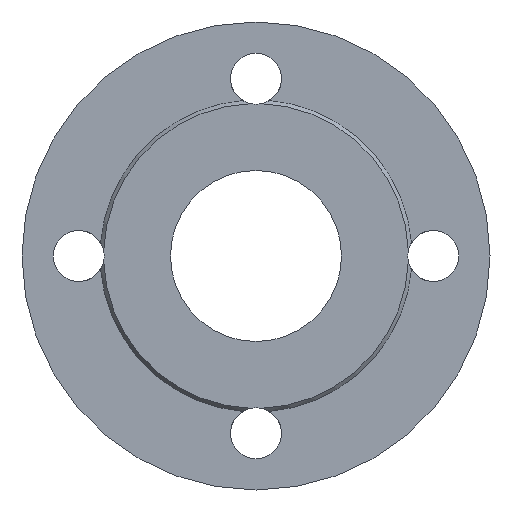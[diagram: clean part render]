
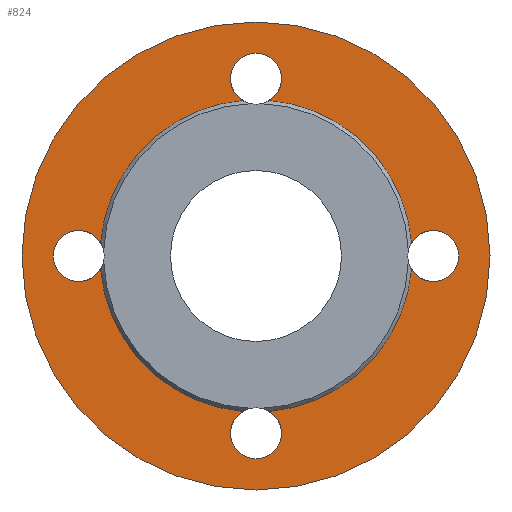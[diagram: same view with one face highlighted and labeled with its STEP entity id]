
A CAD part, front view. The second image highlights one B-rep face of the part: STEP entity #824.
In plain terms, the highlighted planar face has unit normal (0, -1, 0).
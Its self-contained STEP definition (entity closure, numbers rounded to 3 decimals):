
#2 = DIRECTION ( 'NONE',  ( 0., -1., 0. ) ) ;
#3 = EDGE_CURVE ( 'NONE', #861, #307, #662, .T. ) ;
#12 = AXIS2_PLACEMENT_3D ( 'NONE', #1034, #1045, #297 ) ;
#25 = AXIS2_PLACEMENT_3D ( 'NONE', #372, #948, #1043 ) ;
#28 = ORIENTED_EDGE ( 'NONE', *, *, #119, .F. ) ;
#31 = CARTESIAN_POINT ( 'NONE',  ( -62.5, 1.5, 0. ) ) ;
#39 = VERTEX_POINT ( 'NONE', #790 ) ;
#45 = AXIS2_PLACEMENT_3D ( 'NONE', #818, #324, #635 ) ;
#56 = ORIENTED_EDGE ( 'NONE', *, *, #382, .F. ) ;
#62 = ORIENTED_EDGE ( 'NONE', *, *, #306, .F. ) ;
#90 = CIRCLE ( 'NONE', #520, 9. ) ;
#92 = AXIS2_PLACEMENT_3D ( 'NONE', #645, #562, #565 ) ;
#94 = CARTESIAN_POINT ( 'NONE',  ( 0., 1.5, 0. ) ) ;
#97 = DIRECTION ( 'NONE',  ( 0., 1., 0. ) ) ;
#98 = EDGE_CURVE ( 'NONE', #410, #1006, #526, .T. ) ;
#104 = CIRCLE ( 'NONE', #25, 9. ) ;
#119 = EDGE_CURVE ( 'NONE', #39, #1040, #209, .T. ) ;
#135 = DIRECTION ( 'NONE',  ( 0., 1., 0. ) ) ;
#136 = EDGE_CURVE ( 'NONE', #619, #698, #803, .T. ) ;
#141 = DIRECTION ( 'NONE',  ( 0., 0., 1. ) ) ;
#147 = ORIENTED_EDGE ( 'NONE', *, *, #3, .F. ) ;
#150 = DIRECTION ( 'NONE',  ( 0., -1., 0. ) ) ;
#162 = EDGE_CURVE ( 'NONE', #307, #286, #838, .T. ) ;
#166 = DIRECTION ( 'NONE',  ( 0., 0., -1. ) ) ;
#171 = CARTESIAN_POINT ( 'NONE',  ( 4.663, 1.5, -54.802 ) ) ;
#178 = CARTESIAN_POINT ( 'NONE',  ( -54.802, 1.5, -4.663 ) ) ;
#191 = AXIS2_PLACEMENT_3D ( 'NONE', #394, #559, #315 ) ;
#193 = CARTESIAN_POINT ( 'NONE',  ( 54.802, 1.5, 4.663 ) ) ;
#195 = AXIS2_PLACEMENT_3D ( 'NONE', #478, #236, #166 ) ;
#198 = CARTESIAN_POINT ( 'NONE',  ( 71.5, 1.5, 0. ) ) ;
#209 = CIRCLE ( 'NONE', #191, 9. ) ;
#213 = VERTEX_POINT ( 'NONE', #171 ) ;
#233 = VERTEX_POINT ( 'NONE', #178 ) ;
#236 = DIRECTION ( 'NONE',  ( 0., -1., 0. ) ) ;
#255 = DIRECTION ( 'NONE',  ( 0., -1., 0. ) ) ;
#259 = EDGE_CURVE ( 'NONE', #698, #233, #388, .T. ) ;
#266 = ORIENTED_EDGE ( 'NONE', *, *, #629, .T. ) ;
#267 = DIRECTION ( 'NONE',  ( 0., 1., 0. ) ) ;
#270 = CARTESIAN_POINT ( 'NONE',  ( -4.663, 1.5, -54.802 ) ) ;
#286 = VERTEX_POINT ( 'NONE', #193 ) ;
#290 = ORIENTED_EDGE ( 'NONE', *, *, #162, .F. ) ;
#297 = DIRECTION ( 'NONE',  ( 1., 0., 0. ) ) ;
#306 = EDGE_CURVE ( 'NONE', #461, #213, #90, .T. ) ;
#307 = VERTEX_POINT ( 'NONE', #198 ) ;
#312 = CARTESIAN_POINT ( 'NONE',  ( -62.5, 1.5, 0. ) ) ;
#315 = DIRECTION ( 'NONE',  ( 0., 0., 1. ) ) ;
#318 = AXIS2_PLACEMENT_3D ( 'NONE', #583, #97, #417 ) ;
#324 = DIRECTION ( 'NONE',  ( 0., -1., 0. ) ) ;
#330 = CARTESIAN_POINT ( 'NONE',  ( -54.802, 1.5, 4.663 ) ) ;
#356 = ORIENTED_EDGE ( 'NONE', *, *, #419, .F. ) ;
#366 = CARTESIAN_POINT ( 'NONE',  ( 0., 1.5, 0. ) ) ;
#372 = CARTESIAN_POINT ( 'NONE',  ( 0., 1.5, -62.5 ) ) ;
#376 = CARTESIAN_POINT ( 'NONE',  ( 0., 1.5, 0. ) ) ;
#382 = EDGE_CURVE ( 'NONE', #678, #461, #104, .T. ) ;
#388 = CIRCLE ( 'NONE', #992, 9. ) ;
#394 = CARTESIAN_POINT ( 'NONE',  ( 0., 1.5, 62.5 ) ) ;
#396 = CIRCLE ( 'NONE', #639, 55. ) ;
#400 = CARTESIAN_POINT ( 'NONE',  ( -4.663, 1.5, 54.802 ) ) ;
#408 = DIRECTION ( 'NONE',  ( 0., 0., 1. ) ) ;
#410 = VERTEX_POINT ( 'NONE', #693 ) ;
#415 = AXIS2_PLACEMENT_3D ( 'NONE', #688, #150, #941 ) ;
#417 = DIRECTION ( 'NONE',  ( 0., 0., 1. ) ) ;
#419 = EDGE_CURVE ( 'NONE', #1040, #549, #800, .T. ) ;
#420 = ORIENTED_EDGE ( 'NONE', *, *, #682, .T. ) ;
#455 = CARTESIAN_POINT ( 'NONE',  ( 0., 1.5, 82.5 ) ) ;
#461 = VERTEX_POINT ( 'NONE', #605 ) ;
#469 = CARTESIAN_POINT ( 'NONE',  ( 0., 1.5, 71.5 ) ) ;
#478 = CARTESIAN_POINT ( 'NONE',  ( -55., 1.5, 0. ) ) ;
#488 = CIRCLE ( 'NONE', #724, 82.5 ) ;
#492 = EDGE_CURVE ( 'NONE', #861, #213, #586, .T. ) ;
#504 = ORIENTED_EDGE ( 'NONE', *, *, #492, .T. ) ;
#505 = DIRECTION ( 'NONE',  ( 0., -1., 0. ) ) ;
#516 = AXIS2_PLACEMENT_3D ( 'NONE', #376, #940, #141 ) ;
#520 = AXIS2_PLACEMENT_3D ( 'NONE', #925, #505, #598 ) ;
#521 = CARTESIAN_POINT ( 'NONE',  ( -71.5, 1.5, 0. ) ) ;
#526 = CIRCLE ( 'NONE', #92, 82.5 ) ;
#549 = VERTEX_POINT ( 'NONE', #400 ) ;
#559 = DIRECTION ( 'NONE',  ( 0., -1., 0. ) ) ;
#562 = DIRECTION ( 'NONE',  ( 0., 1., 0. ) ) ;
#565 = DIRECTION ( 'NONE',  ( 0., 0., 1. ) ) ;
#568 = AXIS2_PLACEMENT_3D ( 'NONE', #366, #135, #865 ) ;
#583 = CARTESIAN_POINT ( 'NONE',  ( 0., 1.5, 0. ) ) ;
#586 = CIRCLE ( 'NONE', #568, 55. ) ;
#598 = DIRECTION ( 'NONE',  ( 0., 0., -1. ) ) ;
#599 = EDGE_CURVE ( 'NONE', #1006, #410, #488, .T. ) ;
#605 = CARTESIAN_POINT ( 'NONE',  ( 0., 1.5, -71.5 ) ) ;
#619 = VERTEX_POINT ( 'NONE', #330 ) ;
#629 = EDGE_CURVE ( 'NONE', #39, #286, #675, .T. ) ;
#635 = DIRECTION ( 'NONE',  ( 1., 0., 0. ) ) ;
#638 = PLANE ( 'NONE',  #195 ) ;
#639 = AXIS2_PLACEMENT_3D ( 'NONE', #664, #653, #996 ) ;
#645 = CARTESIAN_POINT ( 'NONE',  ( 0., 1.5, 0. ) ) ;
#653 = DIRECTION ( 'NONE',  ( 0., 1., 0. ) ) ;
#662 = CIRCLE ( 'NONE', #12, 9. ) ;
#664 = CARTESIAN_POINT ( 'NONE',  ( 0., 1.5, 0. ) ) ;
#675 = CIRCLE ( 'NONE', #318, 55. ) ;
#678 = VERTEX_POINT ( 'NONE', #270 ) ;
#682 = EDGE_CURVE ( 'NONE', #678, #233, #849, .T. ) ;
#688 = CARTESIAN_POINT ( 'NONE',  ( 0., 1.5, 62.5 ) ) ;
#693 = CARTESIAN_POINT ( 'NONE',  ( 0., 1.5, -82.5 ) ) ;
#698 = VERTEX_POINT ( 'NONE', #521 ) ;
#724 = AXIS2_PLACEMENT_3D ( 'NONE', #94, #267, #408 ) ;
#760 = ORIENTED_EDGE ( 'NONE', *, *, #98, .F. ) ;
#790 = CARTESIAN_POINT ( 'NONE',  ( 4.663, 1.5, 54.802 ) ) ;
#800 = CIRCLE ( 'NONE', #415, 9. ) ;
#803 = CIRCLE ( 'NONE', #821, 9. ) ;
#807 = CARTESIAN_POINT ( 'NONE',  ( 54.802, 1.5, -4.663 ) ) ;
#810 = ORIENTED_EDGE ( 'NONE', *, *, #259, .F. ) ;
#818 = CARTESIAN_POINT ( 'NONE',  ( 62.5, 1.5, 0. ) ) ;
#821 = AXIS2_PLACEMENT_3D ( 'NONE', #312, #2, #906 ) ;
#824 = ADVANCED_FACE ( 'NONE', ( #1052, #973 ), #638, .T. ) ;
#833 = DIRECTION ( 'NONE',  ( -1., 0., 0. ) ) ;
#838 = CIRCLE ( 'NONE', #45, 9. ) ;
#849 = CIRCLE ( 'NONE', #516, 55. ) ;
#861 = VERTEX_POINT ( 'NONE', #807 ) ;
#865 = DIRECTION ( 'NONE',  ( 0., 0., 1. ) ) ;
#902 = EDGE_CURVE ( 'NONE', #619, #549, #396, .T. ) ;
#906 = DIRECTION ( 'NONE',  ( -1., 0., 0. ) ) ;
#925 = CARTESIAN_POINT ( 'NONE',  ( 0., 1.5, -62.5 ) ) ;
#927 = EDGE_LOOP ( 'NONE', ( #951, #969, #356, #28, #266, #290, #147, #504, #62, #56, #420, #810 ) ) ;
#940 = DIRECTION ( 'NONE',  ( 0., 1., 0. ) ) ;
#941 = DIRECTION ( 'NONE',  ( 0., 0., 1. ) ) ;
#948 = DIRECTION ( 'NONE',  ( 0., -1., 0. ) ) ;
#951 = ORIENTED_EDGE ( 'NONE', *, *, #136, .F. ) ;
#953 = EDGE_LOOP ( 'NONE', ( #1003, #760 ) ) ;
#969 = ORIENTED_EDGE ( 'NONE', *, *, #902, .T. ) ;
#973 = FACE_OUTER_BOUND ( 'NONE', #953, .T. ) ;
#992 = AXIS2_PLACEMENT_3D ( 'NONE', #31, #255, #833 ) ;
#996 = DIRECTION ( 'NONE',  ( 0., 0., 1. ) ) ;
#1003 = ORIENTED_EDGE ( 'NONE', *, *, #599, .F. ) ;
#1006 = VERTEX_POINT ( 'NONE', #455 ) ;
#1034 = CARTESIAN_POINT ( 'NONE',  ( 62.5, 1.5, 0. ) ) ;
#1040 = VERTEX_POINT ( 'NONE', #469 ) ;
#1043 = DIRECTION ( 'NONE',  ( 0., 0., -1. ) ) ;
#1045 = DIRECTION ( 'NONE',  ( 0., -1., 0. ) ) ;
#1052 = FACE_BOUND ( 'NONE', #927, .T. ) ;
